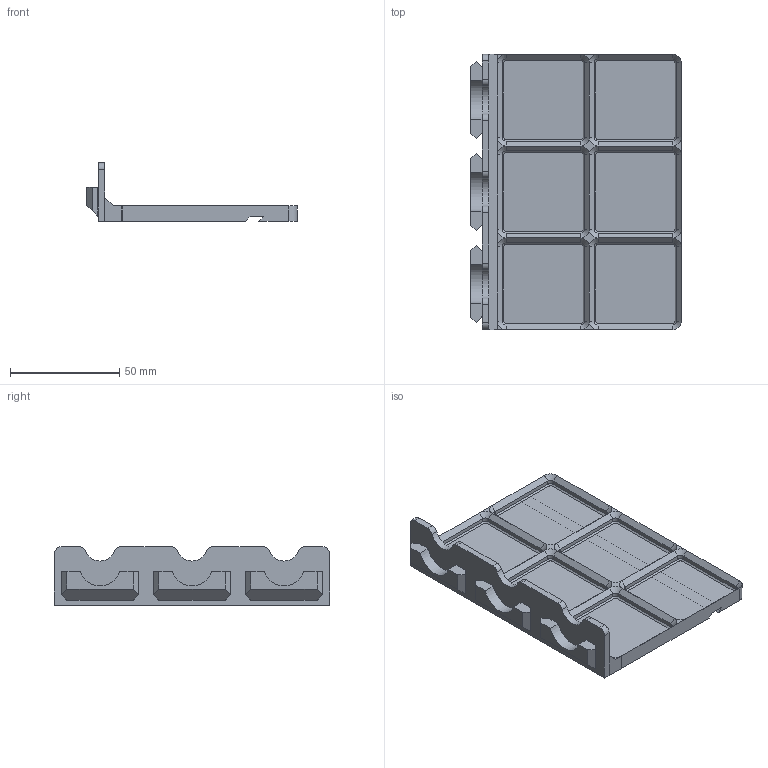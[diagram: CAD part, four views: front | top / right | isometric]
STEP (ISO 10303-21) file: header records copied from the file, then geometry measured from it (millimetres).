
FILE_DESCRIPTION(/* description */ ('','CAx-IF Rec.Pracs.---Representation and Presentation of Product Manufacturing Information (PMI)---4.0---2014-10-13'),/* implementation_level */ '2;1');
FILE_NAME(/* name */ 'Goews Triple Hanger Gridfinity 2x3 Base.step',/* time_stamp */ '2024-11-28T18:01:53-05:00',/* author */ (''),/* organization */ (''),/* preprocessor_version */ 'ST-DEVELOPER v20',/* originating_system */ 'Autodesk Translation Framework v13.20.0.188',/* authorisation */ '');
FILE_SCHEMA (('AP242_MANAGED_MODEL_BASED_3D_ENGINEERING_MIM_LF { 1 0 10303 442 1 1 4 }'));
Length unit declared in the file: millimetre
Products named in the file (1): Goews Triple Hanger Gridfinity 2x3 Base
Bounding box: 96.15 x 126 x 26.72 mm (x, y, z)
Volume: 49055.6 mm3; surface area: 34990.7 mm2
Topology: 1 solids, 1 shells, 253 faces, 572 edges, 324 vertices
Faces by surface type: plane 143, cylinder 62, cone 48
Entity records: 6873 total; most frequent: DIRECTION 1230, CARTESIAN_POINT 1150, ORIENTED_EDGE 1144, EDGE_CURVE 572, LINE 422, VECTOR 422, AXIS2_PLACEMENT_3D 404, VERTEX_POINT 324
